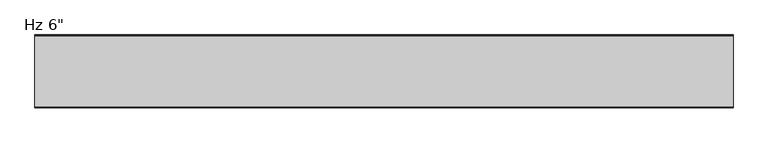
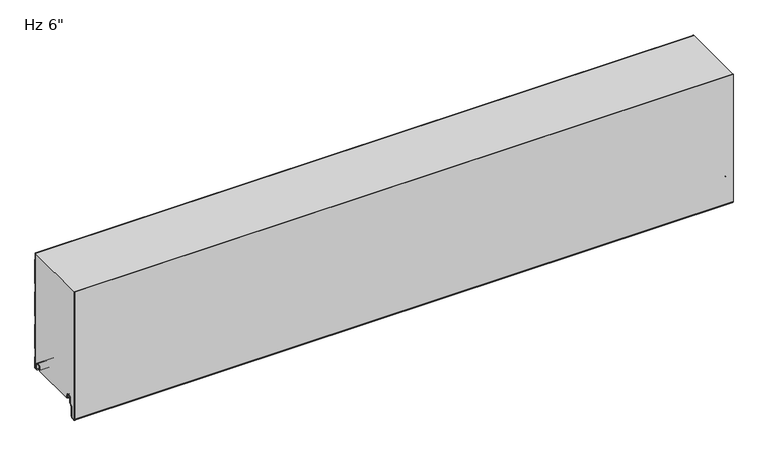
"""IFC4 building model written with IfcOpenShell, lengths in millimetres: plate geometry."""

from ifc_helpers import new_model, si_unit, point, frame, frame_2d, origin, place, context, project, spatial, polyline, circle_curve, trimmed, segment, composite_curve, outline, extrude, source, transform, mapped, element, save
from ifc_brep_helpers import plane_surface, cylinder_surface, revolved_surface, advanced_brep


def plate_1d40ac18(model_context):
    return source(origin(), model_context, "Body", "SolidModel", [
        advanced_brep(
        [(-730.0, -17.0015159, 2.0313088), (-730.0, -18.0015191, 1.0313116), (-730.0, -19.0015105, 2.0313088), (-730.0, -19.0015105, 6.0315125), (-730.0, -18.0015159, 6.0315125), (-730.0, -18.0015159, 8.7237223), (-730.0, -14.7015202, 12.023718), (-730.0, -10.301529, 12.023718), (-730.0, -7.0015335, 8.7237225), (-730.0, -7.0015335, -1.6962564), (-730.0, -5.2315393, -3.4662506), (-730.0, -0.9999916, -3.4662506), (-730.0, -0.9999916, 21.034026), (-730.0, -2.2002307, 22.4196686), (-730.0, -2.2002307, 41.7948349), (-730.0, -1.0, 43.1804679), (-730.0, -1.0, 97.2338833), (-730.0, -2.2002307, 98.6195162), (-730.0, -2.2002307, 117.9946825), (-730.0, -1.0, 119.3803155), (-730.0, -1.0, 173.4337309), (-730.0, -2.2002307, 174.8193638), (-730.0, -2.2002307, 194.1945301), (-730.0, -1.0, 195.5801631), (-730.0, -1.0, 249.6335785), (-730.0, -2.2002307, 251.0192114), (-730.0, -2.2002307, 266.4), (-730.0, -1.2002307, 266.4), (-730.0, -1.2002307, 251.3920919), (-730.0, -0.3417885, 250.4010442), (-730.0, 0.0, 249.4844273), (-730.0, 0.0, 195.7293142), (-730.0, -0.3417885, 194.8126973), (-730.0, -1.2002307, 193.8216497), (-730.0, -1.2002307, 175.1922443), (-730.0, -0.3417885, 174.2011966), (-730.0, 0.0, 173.2845797), (-730.0, 0.0, 119.5294666), (-730.0, -0.3417885, 118.6128497), (-730.0, -1.2002307, 117.6218021), (-730.0, -1.2002307, 98.9923967), (-730.0, -0.3417885, 98.001349), (-730.0, 0.0, 97.0847321), (-730.0, 0.0, 43.329619), (-730.0, -0.3417885, 42.4130021), (-730.0, -1.2002307, 41.4219545), (-730.0, -1.2002307, 22.7925491), (-730.0, -0.3417885, 21.8015014), (-730.0, 0.0, 20.8847931), (-730.0, 8.4e-06, -3.0662545), (-730.0, -1.3999878, -4.4662506), (-730.0, -5.2315393, -4.4662506), (-730.0, -8.0015335, -1.6962564), (-730.0, -8.0015335, 8.7237225), (-730.0, -10.301529, 11.023718), (-730.0, -14.7015202, 11.023718), (-730.0, -17.0015159, 8.7237223), (730.0, -17.0015159, 2.0313088), (730.0, -17.0015159, 8.7237223), (730.0, -14.7015202, 11.023718), (730.0, -10.301529, 11.023718), (730.0, -8.0015335, 8.7237225), (730.0, -8.0015335, -1.6962564), (730.0, -5.2315393, -4.4662506), (730.0, -1.3999878, -4.4662506), (730.0, 8.4e-06, -3.0662545), (730.0, 8.4e-06, 20.8848845), (730.0, -0.3417885, 21.8015014), (730.0, -1.2002307, 22.7925491), (730.0, -1.2002307, 41.4219545), (730.0, -0.3417885, 42.4130021), (730.0, 0.0, 43.329619), (730.0, 0.0, 97.0847321), (730.0, -0.3417885, 98.001349), (730.0, -1.2002307, 98.9923967), (730.0, -1.2002307, 117.6218021), (730.0, -0.3417885, 118.6128497), (730.0, 0.0, 119.5294666), (730.0, 0.0, 173.2845797), (730.0, -0.3417885, 174.2011966), (730.0, -1.2002307, 175.1922443), (730.0, -1.2002307, 193.8216497), (730.0, -0.3417885, 194.8126973), (730.0, 0.0, 195.7293142), (730.0, 0.0, 249.4844273), (730.0, -0.3417885, 250.4010442), (730.0, -1.2002307, 251.3920919), (730.0, -1.2002307, 266.4), (730.0, -2.2002307, 266.4), (730.0, -2.2002307, 251.0192114), (730.0, -1.0, 249.6335785), (730.0, -1.0, 195.5801631), (730.0, -2.2002307, 194.1945301), (730.0, -2.2002307, 174.8193638), (730.0, -1.0, 173.4337309), (730.0, -1.0, 119.3803155), (730.0, -2.2002307, 117.9946825), (730.0, -2.2002307, 98.6195162), (730.0, -1.0, 97.2338833), (730.0, -1.0, 43.1804679), (730.0, -2.2002307, 41.7948349), (730.0, -2.2002307, 22.4196686), (730.0, -0.9999916, 21.034026), (730.0, -0.9999916, -3.4662506), (730.0, -5.2315393, -3.4662506), (730.0, -7.0015335, -1.6962564), (730.0, -7.0015335, 8.7237225), (730.0, -10.301529, 12.023718), (730.0, -14.7015202, 12.023718), (730.0, -18.0015159, 8.7237223), (730.0, -18.0015159, 6.0315125), (730.0, -19.0015105, 6.0315125), (730.0, -19.0015105, 2.0313088), (730.0, -18.0015192, 1.0313116)],
        [
            (0, 1, circle_curve(frame((-730.0, -18.0015132, 2.0313088), z_axis=(-1.0, 0.0, 0.0), x_axis=(0.0, 0.0, 1.0)), 0.9999973)),
            (1, 2, circle_curve(frame((-730.0, -18.0015133, 2.0313088), z_axis=(-1.0, 0.0, 0.0), x_axis=(0.0, 0.0, 1.0)), 0.9999972)),
            (2, 3),
            (3, 4),
            (4, 5),
            (5, 6, circle_curve(frame((-730.0, -14.7015202, 8.7237223), z_axis=(-1.0, 0.0, 0.0), x_axis=(0.0, 0.0, 1.0)), 3.2999957)),
            (6, 7),
            (7, 8, circle_curve(frame((-730.0, -10.301529, 8.7237225), z_axis=(-1.0, 0.0, 0.0), x_axis=(0.0, 0.0, 1.0)), 3.2999955)),
            (8, 9),
            (9, 10, circle_curve(frame((-730.0, -5.2315393, -1.6962564), z_axis=(1.0, 0.0, 0.0), x_axis=(0.0, 0.0, 1.0)), 1.7699942)),
            (10, 11),
            (11, 12),
            (12, 13),
            (13, 14),
            (14, 15),
            (15, 16),
            (16, 17),
            (17, 18),
            (18, 19),
            (19, 20),
            (20, 21),
            (21, 22),
            (22, 23),
            (23, 24),
            (24, 25),
            (25, 26),
            (26, 27),
            (27, 28),
            (28, 29),
            (29, 30, circle_curve(frame((-730.0, -1.3999972, 249.4844273), z_axis=(-1.0, 0.0, 0.0), x_axis=(0.0, 0.0, 1.0)), 1.3999972)),
            (30, 31),
            (31, 32, circle_curve(frame((-730.0, -1.3999972, 195.7293142), z_axis=(-1.0, 0.0, 0.0), x_axis=(0.0, 0.0, 1.0)), 1.3999972)),
            (32, 33),
            (33, 34),
            (34, 35),
            (35, 36, circle_curve(frame((-730.0, -1.3999972, 173.2845797), z_axis=(-1.0, 0.0, 0.0), x_axis=(0.0, 0.0, 1.0)), 1.3999972)),
            (36, 37),
            (37, 38, circle_curve(frame((-730.0, -1.3999972, 119.5294666), z_axis=(-1.0, 0.0, 0.0), x_axis=(0.0, 0.0, 1.0)), 1.3999972)),
            (38, 39),
            (39, 40),
            (40, 41),
            (41, 42, circle_curve(frame((-730.0, -1.3999972, 97.0847321), z_axis=(-1.0, 0.0, 0.0), x_axis=(0.0, 0.0, 1.0)), 1.3999972)),
            (42, 43),
            (43, 44, circle_curve(frame((-730.0, -1.3999972, 43.329619), z_axis=(-1.0, 0.0, 0.0), x_axis=(0.0, 0.0, 1.0)), 1.3999972)),
            (44, 45),
            (45, 46),
            (46, 47),
            (47, 48, circle_curve(frame((-730.0, -1.3999972, 20.8848845), z_axis=(-1.0, 0.0, 0.0), x_axis=(0.0, 0.0, 1.0)), 1.3999972)),
            (48, 49),
            (49, 50, circle_curve(frame((-730.0, -1.3999878, -3.0662545), z_axis=(-1.0, 0.0, 0.0), x_axis=(0.0, 0.0, 1.0)), 1.3999962)),
            (50, 51),
            (51, 52, circle_curve(frame((-730.0, -5.2315393, -1.6962564), z_axis=(-1.0, 0.0, 0.0), x_axis=(0.0, 0.0, 1.0)), 2.7699942)),
            (52, 53),
            (53, 54, circle_curve(frame((-730.0, -10.301529, 8.7237225), z_axis=(1.0, 0.0, 0.0), x_axis=(0.0, 0.0, 1.0)), 2.2999955)),
            (54, 55),
            (55, 56, circle_curve(frame((-730.0, -14.7015202, 8.7237223), z_axis=(1.0, 0.0, 0.0), x_axis=(0.0, 0.0, 1.0)), 2.2999957)),
            (56, 0),
            (57, 58),
            (58, 59, circle_curve(frame((730.0, -14.7015202, 8.7237223), z_axis=(-1.0, 0.0, 0.0), x_axis=(0.0, 0.0, 1.0)), 2.2999957)),
            (59, 60),
            (60, 61, circle_curve(frame((730.0, -10.301529, 8.7237225), z_axis=(-1.0, 0.0, 0.0), x_axis=(0.0, 0.0, 1.0)), 2.2999955)),
            (61, 62),
            (62, 63, circle_curve(frame((730.0, -5.2315393, -1.6962564), z_axis=(1.0, 0.0, 0.0), x_axis=(0.0, 0.0, 1.0)), 2.7699942)),
            (63, 64),
            (64, 65, circle_curve(frame((730.0, -1.3999878, -3.0662545), z_axis=(1.0, 0.0, 0.0), x_axis=(0.0, 0.0, 1.0)), 1.3999962)),
            (65, 66),
            (66, 67, circle_curve(frame((730.0, -1.3999972, 20.8848845), z_axis=(1.0, 0.0, 0.0), x_axis=(0.0, 0.0, 1.0)), 1.3999972)),
            (67, 68),
            (68, 69),
            (69, 70),
            (70, 71, circle_curve(frame((730.0, -1.3999972, 43.329619), z_axis=(1.0, 0.0, 0.0), x_axis=(0.0, 0.0, 1.0)), 1.3999972)),
            (71, 72),
            (72, 73, circle_curve(frame((730.0, -1.3999972, 97.0847321), z_axis=(1.0, 0.0, 0.0), x_axis=(0.0, 0.0, 1.0)), 1.3999972)),
            (73, 74),
            (74, 75),
            (75, 76),
            (76, 77, circle_curve(frame((730.0, -1.3999972, 119.5294666), z_axis=(1.0, 0.0, 0.0), x_axis=(0.0, 0.0, 1.0)), 1.3999972)),
            (77, 78),
            (78, 79, circle_curve(frame((730.0, -1.3999972, 173.2845797), z_axis=(1.0, 0.0, 0.0), x_axis=(0.0, 0.0, 1.0)), 1.3999972)),
            (79, 80),
            (80, 81),
            (81, 82),
            (82, 83, circle_curve(frame((730.0, -1.3999972, 195.7293142), z_axis=(1.0, 0.0, 0.0), x_axis=(0.0, 0.0, 1.0)), 1.3999972)),
            (83, 84),
            (84, 85, circle_curve(frame((730.0, -1.3999972, 249.4844273), z_axis=(1.0, 0.0, 0.0), x_axis=(0.0, 0.0, 1.0)), 1.3999972)),
            (85, 86),
            (86, 87),
            (87, 88),
            (88, 89),
            (89, 90),
            (90, 91),
            (91, 92),
            (92, 93),
            (93, 94),
            (94, 95),
            (95, 96),
            (96, 97),
            (97, 98),
            (98, 99),
            (99, 100),
            (100, 101),
            (101, 102),
            (102, 103),
            (103, 104),
            (104, 105, circle_curve(frame((730.0, -5.2315393, -1.6962564), z_axis=(-1.0, 0.0, 0.0), x_axis=(0.0, 0.0, 1.0)), 1.7699942)),
            (105, 106),
            (106, 107, circle_curve(frame((730.0, -10.301529, 8.7237225), z_axis=(1.0, 0.0, 0.0), x_axis=(0.0, 0.0, 1.0)), 3.2999955)),
            (107, 108),
            (108, 109, circle_curve(frame((730.0, -14.7015202, 8.7237223), z_axis=(1.0, 0.0, 0.0), x_axis=(0.0, 0.0, 1.0)), 3.2999957)),
            (109, 110),
            (110, 111),
            (111, 112),
            (112, 113, circle_curve(frame((730.0, -18.0015133, 2.0313088), z_axis=(1.0, 0.0, 0.0), x_axis=(0.0, 0.0, 1.0)), 0.9999972)),
            (113, 57, circle_curve(frame((730.0, -18.0015132, 2.0313088), z_axis=(1.0, 0.0, 0.0), x_axis=(0.0, 0.0, 1.0)), 0.9999973)),
            (26, 88),
            (87, 27),
            (56, 58),
            (57, 0),
            (55, 59),
            (54, 60),
            (53, 61),
            (52, 62),
            (51, 63),
            (50, 64),
            (49, 65),
            (48, 66),
            (47, 67),
            (46, 68),
            (45, 69),
            (44, 70),
            (43, 71),
            (42, 72),
            (41, 73),
            (40, 74),
            (39, 75),
            (38, 76),
            (37, 77),
            (36, 78),
            (19, 95),
            (94, 20),
            (18, 96),
            (17, 97),
            (16, 98),
            (15, 99),
            (14, 100),
            (13, 101),
            (12, 102),
            (11, 103),
            (10, 104),
            (9, 105),
            (8, 106),
            (7, 107),
            (6, 108),
            (5, 109),
            (4, 110),
            (3, 111),
            (2, 112),
            (1, 113),
            (35, 79),
            (34, 80),
            (33, 81),
            (32, 82),
            (31, 83),
            (30, 84),
            (29, 85),
            (28, 86),
            (25, 89),
            (24, 90),
            (23, 91),
            (22, 92),
            (21, 93),
        ],
        [
            plane_surface(frame((-730.0, 0.0, 533.4), z_axis=(-1.0, 0.0, 0.0), x_axis=(0.0, 1.0, 0.0))),
            plane_surface(frame((730.0, 0.0, 533.4), z_axis=(1.0, 0.0, 0.0), x_axis=(0.0, 1.0, 0.0))),
            plane_surface(frame((730.0, 10.0, 266.4), z_axis=(0.0, 0.0, 1.0), x_axis=(-1.0, 0.0, 0.0))),
            plane_surface(frame((-730.0, -17.0015159, 2.0313088), z_axis=(0.0, 1.0, 0.0), x_axis=(1.0, 0.0, 0.0))),
            revolved_surface(polyline([(730.0, -14.7015202, 11.023718), (-730.0, -14.7015202, 11.023718)]), (-730.0, -14.7015202, 8.7237223), (1.0, 0.0, 0.0)),
            plane_surface(frame((-730.0, -14.7015202, 11.023718), z_axis=(0.0, 0.0, -1.0), x_axis=(1.0, 0.0, 0.0))),
            revolved_surface(polyline([(730.0, -10.301529, 11.023717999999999), (-730.0, -10.301529, 11.023717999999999)]), (-730.0, -10.301529, 8.7237225), (1.0, 0.0, 0.0)),
            plane_surface(frame((-730.0, -8.0015335, 8.7237225), z_axis=(0.0, -1.0, 0.0), x_axis=(1.0, 0.0, 0.0))),
            cylinder_surface(frame((-730.0, -5.2315393, -1.6962564), z_axis=(-1.0, 0.0, 0.0), x_axis=(0.0, 0.0, 1.0)), 2.7699942),
            plane_surface(frame((-730.0, -5.2315393, -4.4662506), z_axis=(0.0, 0.0, -1.0), x_axis=(1.0, 0.0, 0.0))),
            cylinder_surface(frame((-730.0, -1.3999878, -3.0662545), z_axis=(-1.0, 0.0, 0.0), x_axis=(0.0, 0.0, 1.0)), 1.3999962),
            plane_surface(frame((-730.0, 8.4e-06, -3.0662545), z_axis=(0.0, 1.0, 0.0), x_axis=(1.0, 0.0, 0.0))),
            cylinder_surface(frame((-730.0, -1.3999972, 20.8848845), z_axis=(-1.0, 0.0, 0.0), x_axis=(0.0, 0.0, 1.0)), 1.3999972),
            plane_surface(frame((-730.0, -0.3417885, 21.8015014), z_axis=(0.0, 0.755864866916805, 0.6547276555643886), x_axis=(1.0, 0.0, 0.0))),
            plane_surface(frame((-730.0, -1.2002307, 32.1072518), z_axis=(0.0, 1.0, 0.0), x_axis=(1.0, 0.0, 0.0))),
            plane_surface(frame((-730.0, -1.2002307, 41.4219545), z_axis=(0.0, 0.755864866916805, -0.6547276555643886), x_axis=(1.0, 0.0, 0.0))),
            cylinder_surface(frame((-730.0, -1.3999972, 43.329619), z_axis=(-1.0, 0.0, 0.0), x_axis=(0.0, 0.0, 1.0)), 1.3999972),
            plane_surface(frame((-730.0, 0.0, 43.329619), z_axis=(0.0, 1.0, 0.0), x_axis=(1.0, 0.0, 0.0))),
            cylinder_surface(frame((-730.0, -1.3999972, 97.0847321), z_axis=(-1.0, 0.0, 0.0), x_axis=(0.0, 0.0, 1.0)), 1.3999972),
            plane_surface(frame((-730.0, -0.3417885, 98.001349), z_axis=(0.0, 0.755864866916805, 0.6547276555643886), x_axis=(1.0, 0.0, 0.0))),
            plane_surface(frame((-730.0, -1.2002307, 108.3070994), z_axis=(0.0, 1.0, 0.0), x_axis=(1.0, 0.0, 0.0))),
            plane_surface(frame((-730.0, -1.2002307, 117.6218021), z_axis=(0.0, 0.755864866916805, -0.6547276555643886), x_axis=(1.0, 0.0, 0.0))),
            cylinder_surface(frame((-730.0, -1.3999972, 119.5294666), z_axis=(-1.0, 0.0, 0.0), x_axis=(0.0, 0.0, 1.0)), 1.3999972),
            plane_surface(frame((-730.0, 0.0, 119.5294666), z_axis=(0.0, 1.0, 0.0), x_axis=(1.0, 0.0, 0.0))),
            plane_surface(frame((-730.0, -1.0, 173.4337309), z_axis=(0.0, -1.0, 0.0), x_axis=(1.0, 0.0, 0.0))),
            plane_surface(frame((-730.0, -1.0, 119.3803155), z_axis=(0.0, -0.755864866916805, 0.6547276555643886), x_axis=(1.0, 0.0, 0.0))),
            plane_surface(frame((-730.0, -2.2002307, 117.9946825), z_axis=(0.0, -1.0, 0.0), x_axis=(1.0, 0.0, 0.0))),
            plane_surface(frame((-730.0, -2.2002307, 98.6195162), z_axis=(0.0, -0.755864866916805, -0.6547276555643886), x_axis=(1.0, 0.0, 0.0))),
            plane_surface(frame((-730.0, -1.0, 97.2338833), z_axis=(0.0, -1.0, 0.0), x_axis=(1.0, 0.0, 0.0))),
            plane_surface(frame((-730.0, -1.0, 43.1804679), z_axis=(0.0, -0.755864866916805, 0.6547276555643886), x_axis=(1.0, 0.0, 0.0))),
            plane_surface(frame((-730.0, -2.2002307, 41.7948349), z_axis=(0.0, -1.0, 0.0), x_axis=(1.0, 0.0, 0.0))),
            plane_surface(frame((-730.0, -2.2002307, 22.4196686), z_axis=(0.0, -0.755864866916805, -0.6547276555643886), x_axis=(1.0, 0.0, 0.0))),
            plane_surface(frame((-730.0, -0.9999916, 21.034026), z_axis=(0.0, -1.0, 0.0), x_axis=(1.0, 0.0, 0.0))),
            plane_surface(frame((-730.0, -0.9999916, -3.4662506), z_axis=(0.0, 0.0, 1.0), x_axis=(1.0, 0.0, 0.0))),
            revolved_surface(polyline([(730.0, -5.2315393, 0.07373779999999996), (-730.0, -5.2315393, 0.07373779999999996)]), (-730.0, -5.2315393, -1.6962564), (1.0, 0.0, 0.0)),
            plane_surface(frame((-730.0, -7.0015335, -1.6962564), z_axis=(0.0, 1.0, 0.0), x_axis=(1.0, 0.0, 0.0))),
            cylinder_surface(frame((-730.0, -10.301529, 8.7237225), z_axis=(-1.0, 0.0, 0.0), x_axis=(0.0, 0.0, 1.0)), 3.2999955),
            plane_surface(frame((-730.0, -10.301529, 12.023718), z_axis=(0.0, 0.0, 1.0), x_axis=(1.0, 0.0, 0.0))),
            cylinder_surface(frame((-730.0, -14.7015202, 8.7237223), z_axis=(-1.0, 0.0, 0.0), x_axis=(0.0, 0.0, 1.0)), 3.2999957),
            plane_surface(frame((-730.0, -18.0015159, 8.7237223), z_axis=(0.0, -1.0, 0.0), x_axis=(1.0, 0.0, 0.0))),
            plane_surface(frame((-730.0, -18.0015159, 6.0315125), z_axis=(0.0, 0.0, 1.0), x_axis=(1.0, 0.0, 0.0))),
            plane_surface(frame((-730.0, -19.0015105, 6.0315125), z_axis=(0.0, -1.0, 0.0), x_axis=(1.0, 0.0, 0.0))),
            cylinder_surface(frame((-730.0, -18.0015133, 2.0313088), z_axis=(-1.0, 0.0, 0.0), x_axis=(0.0, 0.0, 1.0)), 0.9999972),
            cylinder_surface(frame((-730.0, -18.0015132, 2.0313088), z_axis=(-1.0, 0.0, 0.0), x_axis=(0.0, 0.0, 1.0)), 0.9999973),
            cylinder_surface(frame((-730.0, -1.3999972, 173.2845797), z_axis=(-1.0, 0.0, 0.0), x_axis=(0.0, 0.0, 1.0)), 1.3999972),
            plane_surface(frame((-730.0, -0.3417885, 174.2011966), z_axis=(0.0, 0.755864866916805, 0.6547276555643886), x_axis=(1.0, 0.0, 0.0))),
            plane_surface(frame((-730.0, -1.2002307, 184.506947), z_axis=(0.0, 1.0, 0.0), x_axis=(1.0, 0.0, 0.0))),
            plane_surface(frame((-730.0, -1.2002307, 193.8216497), z_axis=(0.0, 0.755864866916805, -0.6547276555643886), x_axis=(1.0, 0.0, 0.0))),
            cylinder_surface(frame((-730.0, -1.3999972, 195.7293142), z_axis=(-1.0, 0.0, 0.0), x_axis=(0.0, 0.0, 1.0)), 1.3999972),
            plane_surface(frame((-730.0, 0.0, 195.7293142), z_axis=(0.0, 1.0, 0.0), x_axis=(1.0, 0.0, 0.0))),
            cylinder_surface(frame((-730.0, -1.3999972, 249.4844273), z_axis=(-1.0, 0.0, 0.0), x_axis=(0.0, 0.0, 1.0)), 1.3999972),
            plane_surface(frame((-730.0, -0.3417885, 250.4010442), z_axis=(0.0, 0.755864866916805, 0.6547276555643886), x_axis=(1.0, 0.0, 0.0))),
            plane_surface(frame((-730.0, -1.2002307, 260.7067946), z_axis=(0.0, 1.0, 0.0), x_axis=(1.0, 0.0, 0.0))),
            plane_surface(frame((-730.0, -2.2002307, 270.3943777), z_axis=(0.0, -1.0, 0.0), x_axis=(1.0, 0.0, 0.0))),
            plane_surface(frame((-730.0, -2.2002307, 251.0192114), z_axis=(0.0, -0.755864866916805, -0.6547276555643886), x_axis=(1.0, 0.0, 0.0))),
            plane_surface(frame((-730.0, -1.0, 249.6335785), z_axis=(0.0, -1.0, 0.0), x_axis=(1.0, 0.0, 0.0))),
            plane_surface(frame((-730.0, -1.0, 195.5801631), z_axis=(0.0, -0.755864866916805, 0.6547276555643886), x_axis=(1.0, 0.0, 0.0))),
            plane_surface(frame((-730.0, -2.2002307, 194.1945301), z_axis=(0.0, -1.0, 0.0), x_axis=(1.0, 0.0, 0.0))),
            plane_surface(frame((-730.0, -2.2002307, 174.8193638), z_axis=(0.0, -0.755864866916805, -0.6547276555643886), x_axis=(1.0, 0.0, 0.0))),
        ],
        [
            (0, [[1, 2, 3, 4, 5, 6, 7, 8, 9, 10, 11, 12, 13, 14, 15, 16, 17, 18, 19, 20, 21, 22, 23, 24, 25, 26, 27, 28, 29, 30, 31, 32, 33, 34, 35, 36, 37, 38, 39, 40, 41, 42, 43, 44, 45, 46, 47, 48, 49, 50, 51, 52, 53, 54, 55, 56, 57]]),
            (1, [[58, 59, 60, 61, 62, 63, 64, 65, 66, 67, 68, 69, 70, 71, 72, 73, 74, 75, 76, 77, 78, 79, 80, 81, 82, 83, 84, 85, 86, 87, 88, 89, 90, 91, 92, 93, 94, 95, 96, 97, 98, 99, 100, 101, 102, 103, 104, 105, 106, 107, 108, 109, 110, 111, 112, 113, 114]]),
            (2, [[115, -88, 116, -27]]),
            (3, [[117, -58, 118, -57]]),
            (4, [[119, -59, -117, -56]]),
            (5, [[120, -60, -119, -55]]),
            (6, [[121, -61, -120, -54]]),
            (7, [[122, -62, -121, -53]]),
            (8, [[123, -63, -122, -52]]),
            (9, [[124, -64, -123, -51]]),
            (10, [[125, -65, -124, -50]]),
            (11, [[126, -66, -125, -49]]),
            (12, [[127, -67, -126, -48]]),
            (13, [[128, -68, -127, -47]]),
            (14, [[129, -69, -128, -46]]),
            (15, [[130, -70, -129, -45]]),
            (16, [[131, -71, -130, -44]]),
            (17, [[132, -72, -131, -43]]),
            (18, [[133, -73, -132, -42]]),
            (19, [[134, -74, -133, -41]]),
            (20, [[135, -75, -134, -40]]),
            (21, [[136, -76, -135, -39]]),
            (22, [[137, -77, -136, -38]]),
            (23, [[138, -78, -137, -37]]),
            (24, [[139, -95, 140, -20]]),
            (25, [[141, -96, -139, -19]]),
            (26, [[142, -97, -141, -18]]),
            (27, [[143, -98, -142, -17]]),
            (28, [[144, -99, -143, -16]]),
            (29, [[145, -100, -144, -15]]),
            (30, [[146, -101, -145, -14]]),
            (31, [[147, -102, -146, -13]]),
            (32, [[148, -103, -147, -12]]),
            (33, [[149, -104, -148, -11]]),
            (34, [[150, -105, -149, -10]]),
            (35, [[151, -106, -150, -9]]),
            (36, [[152, -107, -151, -8]]),
            (37, [[153, -108, -152, -7]]),
            (38, [[154, -109, -153, -6]]),
            (39, [[155, -110, -154, -5]]),
            (40, [[156, -111, -155, -4]]),
            (41, [[157, -112, -156, -3]]),
            (42, [[158, -113, -157, -2]]),
            (43, [[-118, -114, -158, -1]]),
            (44, [[159, -79, -138, -36]]),
            (45, [[160, -80, -159, -35]]),
            (46, [[161, -81, -160, -34]]),
            (47, [[162, -82, -161, -33]]),
            (48, [[163, -83, -162, -32]]),
            (49, [[164, -84, -163, -31]]),
            (50, [[165, -85, -164, -30]]),
            (51, [[166, -86, -165, -29]]),
            (52, [[-28, -116, -87, -166]]),
            (53, [[-89, -115, -26, 167]]),
            (54, [[168, -90, -167, -25]]),
            (55, [[169, -91, -168, -24]]),
            (56, [[170, -92, -169, -23]]),
            (57, [[171, -93, -170, -22]]),
            (58, [[-140, -94, -171, -21]]),
        ],
    ),
        extrude(outline(composite_curve([segment(trimmed(circle_curve(frame_2d((-148.8304001, -32.4521176)), 3.5702393), [point((-148.5191297, -36.008762))], [point((-152.4, -32.5196853))], False, "CARTESIAN"), True, "CONTINUOUS"), segment(polyline([(-152.4, -32.5196853), (-152.4, 266.4), (-151.4, 266.4), (-151.4, -32.509446)]), True, "CONTINUOUS"), segment(trimmed(circle_curve(frame_2d((-148.8304001, -32.4521176)), 2.5702393), [point((-151.4, -32.509446))], [point((-148.6063145, -35.0125699))], True, "CARTESIAN"), True, "CONTINUOUS"), segment(polyline([(-148.6063145, -35.0125699), (-143.6244936, -34.5765709)]), True, "CONTINUOUS"), segment(trimmed(circle_curve(frame_2d((-144.1058842, -31.9198392)), 2.6999926), [point((-143.6244936, -34.5765709))], [point((-141.4058916, -31.9198392))], True, "CARTESIAN"), True, "CONTINUOUS"), segment(polyline([(-141.4058916, -31.9198392), (-141.4058916, -9.8247096), (-135.9038205, -4.3226385)]), True, "CONTINUOUS"), segment(trimmed(circle_curve(frame_2d((-137.1058982, -3.1205608)), 1.6999946), [point((-135.9038205, -4.3226385))], [point((-135.4059036, -3.1205608))], True, "CARTESIAN"), True, "CONTINUOUS"), segment(polyline([(-135.4059036, -3.1205608), (-135.4059036, 8.6903283)]), True, "CONTINUOUS"), segment(trimmed(circle_curve(frame_2d((-132.0559083, 8.6903283)), 3.3499953), [point((-135.4059036, 8.6903283))], [point((-132.0559083, 12.0403236))], False, "CARTESIAN"), True, "CONTINUOUS"), segment(polyline([(-132.0559083, 12.0403236), (-127.6559171, 12.0403236)]), True, "CONTINUOUS"), segment(trimmed(circle_curve(frame_2d((-127.6559171, 8.6903283)), 3.3499953), [point((-127.6559171, 12.0403236))], [point((-124.3059218, 8.6903283))], False, "CARTESIAN"), True, "CONTINUOUS"), segment(polyline([(-124.3059218, 8.6903283), (-124.3059218, 5.9912173), (-122.9074429, 5.9912173), (-122.9074429, 2.2328239)]), True, "CONTINUOUS"), segment(trimmed(circle_curve(frame_2d((-124.1074396, 2.2313092)), 1.1999976), [point((-122.9074429, 2.2328239))], [point((-124.0769177, 1.0316999))], False, "CARTESIAN"), True, "CONTINUOUS"), segment(trimmed(circle_curve(frame_2d((-124.1074396, 2.2313092)), 1.1999976), [point((-124.0769177, 1.0316999))], [point((-125.3059218, 2.1710221))], False, "CARTESIAN"), True, "CONTINUOUS"), segment(polyline([(-125.3059218, 2.1710221), (-125.3059218, 8.6903283)]), True, "CONTINUOUS"), segment(trimmed(circle_curve(frame_2d((-127.6559171, 8.6903283)), 2.3499953), [point((-125.3059218, 8.6903283))], [point((-127.6559171, 11.0403236))], True, "CARTESIAN"), True, "CONTINUOUS"), segment(polyline([(-127.6559171, 11.0403236), (-132.0559083, 11.0403236)]), True, "CONTINUOUS"), segment(trimmed(circle_curve(frame_2d((-132.0559083, 8.6903283)), 2.3499953), [point((-132.0559083, 11.0403236))], [point((-134.4059036, 8.6903283))], True, "CARTESIAN"), True, "CONTINUOUS"), segment(polyline([(-134.4059036, 8.6903283), (-134.4059036, -3.1205608)]), True, "CONTINUOUS"), segment(trimmed(circle_curve(frame_2d((-137.1058982, -3.1205608)), 2.6999946), [point((-134.4059036, -3.1205608))], [point((-135.1967137, -5.0297453))], False, "CARTESIAN"), True, "CONTINUOUS"), segment(polyline([(-135.1967137, -5.0297453), (-140.0251312, -9.8581627)]), True, "CONTINUOUS"), segment(trimmed(circle_curve(frame_2d((-139.1058942, -10.7773997)), 1.2999974), [point((-140.0251312, -9.8581627))], [point((-140.4058916, -10.7773997))], True, "CARTESIAN"), True, "CONTINUOUS"), segment(polyline([(-140.4058916, -10.7773997), (-140.4058916, -31.9198392)]), True, "CONTINUOUS"), segment(trimmed(circle_curve(frame_2d((-144.1058842, -31.9198392)), 3.6999926), [point((-140.4058916, -31.9198392))], [point((-143.4950831, -35.5690675))], False, "CARTESIAN"), True, "CONTINUOUS"), segment(polyline([(-143.4950831, -35.5690675), (-148.5191297, -36.008762)]), True, "CONTINUOUS")], self_intersect=False)), frame((-730.0, 0.0, 0.0), z_axis=(1.0, 0.0, 0.0), x_axis=(0.0, 1.0, 0.0)), (0.0, 0.0, 1.0), 1460.0),
        advanced_brep(
        [(-730.0, -124.070875, 1.0316999), (-730.0, -122.9014003, 2.2328239), (-730.0, -122.9014003, 5.9912173), (-730.0, -124.2998791, 5.9912173), (-730.0, -124.2998791, 8.6903283), (-730.0, -127.6498744, 12.0403236), (-730.0, -132.0498656, 12.0403236), (-730.0, -135.3998609, 8.6903283), (-730.0, -135.3998609, -3.1205608), (-730.0, -135.8977778, -4.3226385), (-730.0, -141.3998489, -9.8247096), (-730.0, -141.3998489, -31.9198392), (-730.0, -143.6184509, -34.5765709), (-730.0, -148.6002718, -35.0125699), (-730.0, -151.3945967, -32.4521176), (-730.0, -151.4, 266.4), (-730.0, -2.2002307, 266.4), (-730.0, -2.2002307, 251.0192115), (-730.0, -1.0, 249.6335785), (-730.0, -1.0, 195.5801631), (-730.0, -2.2002307, 194.1945302), (-730.0, -2.2002307, 174.8193639), (-730.0, -1.0, 173.4337309), (-730.0, -1.0, 119.3803155), (-730.0, -2.2002307, 117.9946826), (-730.0, -2.2002307, 98.6195163), (-730.0, -1.0, 97.2338833), (-730.0, -1.0, 43.1804679), (-730.0, -2.2002307, 41.794835), (-730.0, -2.2002307, 22.4196687), (-730.0, -0.9999916, 21.034026), (-730.0, -0.9999916, -3.4662506), (-730.0, -5.2315389, -3.4662506), (-730.0, -7.0015331, -1.6962564), (-730.0, -7.0015331, 8.7237222), (-730.0, -10.301529, 12.023718), (-730.0, -14.7015202, 12.023718), (-730.0, -18.0015159, 8.7237223), (-730.0, -18.0015159, 6.0315125), (-730.0, -19.0015105, 6.0315125), (-730.0, -19.0015105, 2.0313089), (-730.0, -18.0015192, 1.0313117), (-730.0, -19.0328308, 0.0), (-730.0, -123.0391751, 0.0), (730.0, -124.070875, 1.0316999), (730.0, -123.0391751, 0.0), (730.0, -19.0328308, 0.0), (730.0, -18.0015192, 1.0313117), (730.0, -19.0015105, 2.0313089), (730.0, -19.0015105, 6.0315125), (730.0, -18.0015159, 6.0315125), (730.0, -18.0015159, 8.7237223), (730.0, -14.7015202, 12.023718), (730.0, -10.301529, 12.023718), (730.0, -7.0015331, 8.7237222), (730.0, -7.0015331, -1.6962564), (730.0, -5.2315389, -3.4662506), (730.0, -0.9999916, -3.4662506), (730.0, -0.9999916, 21.034026), (730.0, -2.2002307, 22.4196687), (730.0, -2.2002307, 41.794835), (730.0, -1.0, 43.1804679), (730.0, -1.0, 97.2338833), (730.0, -2.2002307, 98.6195163), (730.0, -2.2002307, 117.9946826), (730.0, -1.0, 119.3803155), (730.0, -1.0, 173.4337309), (730.0, -2.2002307, 174.8193639), (730.0, -2.2002307, 194.1945302), (730.0, -1.0, 195.5801631), (730.0, -1.0, 249.6335785), (730.0, -2.2002307, 251.0192115), (730.0, -2.2002307, 266.4), (730.0, -151.4, 266.4), (730.0, -151.4, -32.4521176), (730.0, -148.6002718, -35.0125699), (730.0, -143.6184509, -34.5765709), (730.0, -141.3998489, -31.9198392), (730.0, -141.3998489, -9.8247096), (730.0, -135.8977778, -4.3226385), (730.0, -135.3998609, -3.1205608), (730.0, -135.3998609, 8.6903283), (730.0, -132.0498656, 12.0403236), (730.0, -127.6498744, 12.0403236), (730.0, -124.2998791, 8.6903283), (730.0, -124.2998791, 5.9912173), (730.0, -122.9014003, 5.9912173), (730.0, -122.9014003, 2.2328239)],
        [
            (0, 1, circle_curve(frame((-730.0, -124.1013969, 2.2313092), z_axis=(1.0, 0.0, 0.0), x_axis=(0.0, 0.0, -1.0)), 1.1999976)),
            (1, 2),
            (2, 3),
            (3, 4),
            (4, 5, circle_curve(frame((-730.0, -127.6498744, 8.6903283), z_axis=(1.0, 0.0, 0.0), x_axis=(0.0, 0.0, -1.0)), 3.3499953)),
            (5, 6),
            (6, 7, circle_curve(frame((-730.0, -132.0498656, 8.6903283), z_axis=(1.0, 0.0, 0.0), x_axis=(0.0, 0.0, -1.0)), 3.3499953)),
            (7, 8),
            (8, 9, circle_curve(frame((-730.0, -137.0998555, -3.1205608), z_axis=(-1.0, 0.0, 0.0), x_axis=(0.0, 0.0, -1.0)), 1.6999946)),
            (9, 10),
            (10, 11),
            (11, 12, circle_curve(frame((-730.0, -144.0998415, -31.9198392), z_axis=(-1.0, 0.0, 0.0), x_axis=(0.0, 0.0, -1.0)), 2.6999926)),
            (12, 13),
            (13, 14, circle_curve(frame((-730.0, -148.8243575, -32.4521176), z_axis=(-1.0, 0.0, 0.0), x_axis=(0.0, 0.0, -1.0)), 2.5702393)),
            (14, 15),
            (15, 16),
            (16, 17),
            (17, 18),
            (18, 19),
            (19, 20),
            (20, 21),
            (21, 22),
            (22, 23),
            (23, 24),
            (24, 25),
            (25, 26),
            (26, 27),
            (27, 28),
            (28, 29),
            (29, 30),
            (30, 31),
            (31, 32),
            (32, 33, circle_curve(frame((-730.0, -5.2315389, -1.6962564), z_axis=(-1.0, 0.0, 0.0), x_axis=(0.0, 0.0, -1.0)), 1.7699942)),
            (33, 34),
            (34, 35, circle_curve(frame((-730.0, -10.301529, 8.7237222), z_axis=(1.0, 0.0, 0.0), x_axis=(0.0, 0.0, -1.0)), 3.2999959)),
            (35, 36),
            (36, 37, circle_curve(frame((-730.0, -14.7015202, 8.7237223), z_axis=(1.0, 0.0, 0.0), x_axis=(0.0, 0.0, -1.0)), 3.2999957)),
            (37, 38),
            (38, 39),
            (39, 40),
            (40, 41, circle_curve(frame((-730.0, -18.0015133, 2.0313089), z_axis=(1.0, 0.0, 0.0), x_axis=(0.0, 0.0, -1.0)), 0.9999972)),
            (41, 42),
            (42, 43),
            (43, 0),
            (44, 45),
            (45, 46),
            (46, 47),
            (47, 48, circle_curve(frame((730.0, -18.0015133, 2.0313089), z_axis=(-1.0, 0.0, 0.0), x_axis=(0.0, 0.0, -1.0)), 0.9999972)),
            (48, 49),
            (49, 50),
            (50, 51),
            (51, 52, circle_curve(frame((730.0, -14.7015202, 8.7237223), z_axis=(-1.0, 0.0, 0.0), x_axis=(0.0, 0.0, -1.0)), 3.2999957)),
            (52, 53),
            (53, 54, circle_curve(frame((730.0, -10.301529, 8.7237222), z_axis=(-1.0, 0.0, 0.0), x_axis=(0.0, 0.0, -1.0)), 3.2999959)),
            (54, 55),
            (55, 56, circle_curve(frame((730.0, -5.2315389, -1.6962564), z_axis=(1.0, 0.0, 0.0), x_axis=(0.0, 0.0, -1.0)), 1.7699942)),
            (56, 57),
            (57, 58),
            (58, 59),
            (59, 60),
            (60, 61),
            (61, 62),
            (62, 63),
            (63, 64),
            (64, 65),
            (65, 66),
            (66, 67),
            (67, 68),
            (68, 69),
            (69, 70),
            (70, 71),
            (71, 72),
            (72, 73),
            (73, 74),
            (74, 75, circle_curve(frame((730.0, -148.8243575, -32.4521176), z_axis=(1.0, 0.0, 0.0), x_axis=(0.0, 0.0, -1.0)), 2.5702393)),
            (75, 76),
            (76, 77, circle_curve(frame((730.0, -144.0998415, -31.9198392), z_axis=(1.0, 0.0, 0.0), x_axis=(0.0, 0.0, -1.0)), 2.6999926)),
            (77, 78),
            (78, 79),
            (79, 80, circle_curve(frame((730.0, -137.0998555, -3.1205608), z_axis=(1.0, 0.0, 0.0), x_axis=(0.0, 0.0, -1.0)), 1.6999946)),
            (80, 81),
            (81, 82, circle_curve(frame((730.0, -132.0498656, 8.6903283), z_axis=(-1.0, 0.0, 0.0), x_axis=(0.0, 0.0, -1.0)), 3.3499953)),
            (82, 83),
            (83, 84, circle_curve(frame((730.0, -127.6498744, 8.6903283), z_axis=(-1.0, 0.0, 0.0), x_axis=(0.0, 0.0, -1.0)), 3.3499953)),
            (84, 85),
            (85, 86),
            (86, 87),
            (87, 44, circle_curve(frame((730.0, -124.1013969, 2.2313092), z_axis=(-1.0, 0.0, 0.0), x_axis=(0.0, 0.0, -1.0)), 1.1999976)),
            (15, 73),
            (72, 16),
            (43, 45),
            (44, 0),
            (42, 46),
            (14, 74),
            (13, 75),
            (12, 76),
            (11, 77),
            (10, 78),
            (9, 79),
            (8, 80),
            (7, 81),
            (6, 82),
            (5, 83),
            (4, 84),
            (3, 85),
            (2, 86),
            (1, 87),
            (41, 47),
            (40, 48),
            (39, 49),
            (38, 50),
            (37, 51),
            (36, 52),
            (35, 53),
            (34, 54),
            (33, 55),
            (32, 56),
            (31, 57),
            (30, 58),
            (29, 59),
            (28, 60),
            (27, 61),
            (26, 62),
            (25, 63),
            (24, 64),
            (23, 65),
            (22, 66),
            (21, 67),
            (20, 68),
            (19, 69),
            (18, 70),
            (17, 71),
        ],
        [
            plane_surface(frame((-730.0, -151.4, 533.4), z_axis=(-1.0, 0.0, 0.0), x_axis=(0.0, -1.0, 0.0))),
            plane_surface(frame((730.0, -151.4, 533.4), z_axis=(1.0, 0.0, 0.0), x_axis=(0.0, -1.0, 0.0))),
            plane_surface(frame((730.0, 10.0, 266.4), z_axis=(0.0, 0.0, 1.0), x_axis=(-1.0, 0.0, 0.0))),
            plane_surface(frame((-730.0, -124.070875, 1.0316999), z_axis=(0.0, -0.7071067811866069, -0.7071067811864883), x_axis=(1.0, 0.0, 0.0))),
            plane_surface(frame((-730.0, -123.0391751, 0.0), z_axis=(0.0, 0.0, -1.0), x_axis=(1.0, 0.0, 0.0))),
            plane_surface(frame((-730.0, -151.4, 1018.3156233), z_axis=(0.0, -1.0, 0.0), x_axis=(1.0, 0.0, 0.0))),
            cylinder_surface(frame((-730.0, -148.8243575, -32.4521176), z_axis=(-1.0, 0.0, 0.0), x_axis=(0.0, 0.0, -1.0)), 2.5702393),
            plane_surface(frame((-730.0, -148.6002718, -35.0125699), z_axis=(0.0, 0.08718474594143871, -0.9961921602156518), x_axis=(1.0, 0.0, 0.0))),
            cylinder_surface(frame((-730.0, -144.0998415, -31.9198392), z_axis=(-1.0, 0.0, 0.0), x_axis=(0.0, 0.0, -1.0)), 2.6999926),
            plane_surface(frame((-730.0, -141.3998489, -31.9198392), z_axis=(0.0, 1.0, 0.0), x_axis=(1.0, 0.0, 0.0))),
            plane_surface(frame((-730.0, -141.3998489, -9.8247096), z_axis=(0.0, 0.7071067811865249, -0.7071067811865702), x_axis=(1.0, 0.0, 0.0))),
            cylinder_surface(frame((-730.0, -137.0998555, -3.1205608), z_axis=(-1.0, 0.0, 0.0), x_axis=(0.0, 0.0, -1.0)), 1.6999946),
            plane_surface(frame((-730.0, -135.3998609, -3.1205608), z_axis=(0.0, 1.0, 0.0), x_axis=(1.0, 0.0, 0.0))),
            revolved_surface(polyline([(730.0, -132.0498656, 5.340332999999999), (-730.0, -132.0498656, 5.340332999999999)]), (-730.0, -132.0498656, 8.6903283), (1.0, 0.0, 0.0)),
            plane_surface(frame((-730.0, -132.0498656, 12.0403236), z_axis=(0.0, 0.0, -1.0), x_axis=(1.0, 0.0, 0.0))),
            revolved_surface(polyline([(730.0, -127.6498744, 5.340332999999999), (-730.0, -127.6498744, 5.340332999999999)]), (-730.0, -127.6498744, 8.6903283), (1.0, 0.0, 0.0)),
            plane_surface(frame((-730.0, -124.2998791, 8.6903283), z_axis=(0.0, -1.0, 0.0), x_axis=(1.0, 0.0, 0.0))),
            plane_surface(frame((-730.0, -124.2998791, 5.9912173), z_axis=(0.0, 0.0, -1.0), x_axis=(1.0, 0.0, 0.0))),
            plane_surface(frame((-730.0, -122.9014003, 5.9912173), z_axis=(0.0, -1.0, 0.0), x_axis=(1.0, 0.0, 0.0))),
            revolved_surface(polyline([(730.0, -124.1013969, 1.0313116), (-730.0, -124.1013969, 1.0313116)]), (-730.0, -124.1013969, 2.2313092), (1.0, 0.0, 0.0)),
            plane_surface(frame((-730.0, -19.0328308, 0.0), z_axis=(0.0, 0.7071067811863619, -0.7071067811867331), x_axis=(1.0, 0.0, 0.0))),
            revolved_surface(polyline([(730.0, -18.0015133, 1.0313116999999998), (-730.0, -18.0015133, 1.0313116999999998)]), (-730.0, -18.0015133, 2.0313089), (1.0, 0.0, 0.0)),
            plane_surface(frame((-730.0, -19.0015105, 2.0313089), z_axis=(0.0, 1.0, 0.0), x_axis=(1.0, 0.0, 0.0))),
            plane_surface(frame((-730.0, -19.0015105, 6.0315125), z_axis=(0.0, 0.0, -1.0), x_axis=(1.0, 0.0, 0.0))),
            plane_surface(frame((-730.0, -18.0015159, 6.0315125), z_axis=(0.0, 1.0, 0.0), x_axis=(1.0, 0.0, 0.0))),
            revolved_surface(polyline([(730.0, -14.7015202, 5.4237266), (-730.0, -14.7015202, 5.4237266)]), (-730.0, -14.7015202, 8.7237223), (1.0, 0.0, 0.0)),
            plane_surface(frame((-730.0, -14.7015202, 12.023718), z_axis=(0.0, 0.0, -1.0), x_axis=(1.0, 0.0, 0.0))),
            revolved_surface(polyline([(730.0, -10.301529, 5.423726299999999), (-730.0, -10.301529, 5.423726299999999)]), (-730.0, -10.301529, 8.7237222), (1.0, 0.0, 0.0)),
            plane_surface(frame((-730.0, -7.0015331, 8.7237222), z_axis=(0.0, -1.0, 0.0), x_axis=(1.0, 0.0, 0.0))),
            cylinder_surface(frame((-730.0, -5.2315389, -1.6962564), z_axis=(-1.0, 0.0, 0.0), x_axis=(0.0, 0.0, -1.0)), 1.7699942),
            plane_surface(frame((-730.0, -5.2315389, -3.4662506), z_axis=(0.0, 0.0, -1.0), x_axis=(1.0, 0.0, 0.0))),
            plane_surface(frame((-730.0, -0.9999916, -3.4662506), z_axis=(0.0, 1.0, 0.0), x_axis=(1.0, 0.0, 0.0))),
            plane_surface(frame((-730.0, -0.9999916, 21.034026), z_axis=(0.0, 0.7558648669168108, 0.6547276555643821), x_axis=(1.0, 0.0, 0.0))),
            plane_surface(frame((-730.0, -2.2002307, 22.4196687), z_axis=(0.0, 1.0, 0.0), x_axis=(1.0, 0.0, 0.0))),
            plane_surface(frame((-730.0, -2.2002307, 41.794835), z_axis=(0.0, 0.7558648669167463, -0.6547276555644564), x_axis=(1.0, 0.0, 0.0))),
            plane_surface(frame((-730.0, -1.0, 43.1804679), z_axis=(0.0, 1.0, 0.0), x_axis=(1.0, 0.0, 0.0))),
            plane_surface(frame((-730.0, -1.0, 97.2338833), z_axis=(0.0, 0.7558648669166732, 0.6547276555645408), x_axis=(1.0, 0.0, 0.0))),
            plane_surface(frame((-730.0, -2.2002307, 98.6195163), z_axis=(0.0, 1.0, 0.0), x_axis=(1.0, 0.0, 0.0))),
            plane_surface(frame((-730.0, -2.2002307, 117.9946826), z_axis=(0.0, 0.7558648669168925, -0.6547276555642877), x_axis=(1.0, 0.0, 0.0))),
            plane_surface(frame((-730.0, -1.0, 119.3803155), z_axis=(0.0, 1.0, 0.0), x_axis=(1.0, 0.0, 0.0))),
            plane_surface(frame((-730.0, -1.0, 173.4337309), z_axis=(0.0, 0.7558648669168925, 0.6547276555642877), x_axis=(1.0, 0.0, 0.0))),
            plane_surface(frame((-730.0, -2.2002307, 174.8193639), z_axis=(0.0, 1.0, 0.0), x_axis=(1.0, 0.0, 0.0))),
            plane_surface(frame((-730.0, -2.2002307, 194.1945302), z_axis=(0.0, 0.7558648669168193, -0.6547276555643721), x_axis=(1.0, 0.0, 0.0))),
            plane_surface(frame((-730.0, -1.0, 195.5801631), z_axis=(0.0, 1.0, 0.0), x_axis=(1.0, 0.0, 0.0))),
            plane_surface(frame((-730.0, -1.0, 249.6335785), z_axis=(0.0, 0.7558648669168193, 0.6547276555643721), x_axis=(1.0, 0.0, 0.0))),
            plane_surface(frame((-730.0, -2.2002307, 251.0192115), z_axis=(0.0, 1.0, 0.0), x_axis=(1.0, 0.0, 0.0))),
        ],
        [
            (0, [[1, 2, 3, 4, 5, 6, 7, 8, 9, 10, 11, 12, 13, 14, 15, 16, 17, 18, 19, 20, 21, 22, 23, 24, 25, 26, 27, 28, 29, 30, 31, 32, 33, 34, 35, 36, 37, 38, 39, 40, 41, 42, 43, 44]]),
            (1, [[45, 46, 47, 48, 49, 50, 51, 52, 53, 54, 55, 56, 57, 58, 59, 60, 61, 62, 63, 64, 65, 66, 67, 68, 69, 70, 71, 72, 73, 74, 75, 76, 77, 78, 79, 80, 81, 82, 83, 84, 85, 86, 87, 88]]),
            (2, [[89, -73, 90, -16]]),
            (3, [[91, -45, 92, -44]]),
            (4, [[-43, 93, -46, -91]]),
            (5, [[-74, -89, -15, 94]]),
            (6, [[95, -75, -94, -14]]),
            (7, [[96, -76, -95, -13]]),
            (8, [[97, -77, -96, -12]]),
            (9, [[98, -78, -97, -11]]),
            (10, [[99, -79, -98, -10]]),
            (11, [[100, -80, -99, -9]]),
            (12, [[101, -81, -100, -8]]),
            (13, [[102, -82, -101, -7]]),
            (14, [[103, -83, -102, -6]]),
            (15, [[104, -84, -103, -5]]),
            (16, [[105, -85, -104, -4]]),
            (17, [[106, -86, -105, -3]]),
            (18, [[107, -87, -106, -2]]),
            (19, [[-92, -88, -107, -1]]),
            (20, [[108, -47, -93, -42]]),
            (21, [[109, -48, -108, -41]]),
            (22, [[110, -49, -109, -40]]),
            (23, [[111, -50, -110, -39]]),
            (24, [[112, -51, -111, -38]]),
            (25, [[113, -52, -112, -37]]),
            (26, [[114, -53, -113, -36]]),
            (27, [[115, -54, -114, -35]]),
            (28, [[116, -55, -115, -34]]),
            (29, [[117, -56, -116, -33]]),
            (30, [[118, -57, -117, -32]]),
            (31, [[119, -58, -118, -31]]),
            (32, [[120, -59, -119, -30]]),
            (33, [[121, -60, -120, -29]]),
            (34, [[122, -61, -121, -28]]),
            (35, [[123, -62, -122, -27]]),
            (36, [[124, -63, -123, -26]]),
            (37, [[125, -64, -124, -25]]),
            (38, [[126, -65, -125, -24]]),
            (39, [[127, -66, -126, -23]]),
            (40, [[128, -67, -127, -22]]),
            (41, [[129, -68, -128, -21]]),
            (42, [[130, -69, -129, -20]]),
            (43, [[131, -70, -130, -19]]),
            (44, [[132, -71, -131, -18]]),
            (45, [[-17, -90, -72, -132]]),
        ],
    ),
    ])


if __name__ == "__main__":
    model = new_model("IFC4")
    model_context = context("Model", 3, world=origin())
    ifc_project = project(units=[si_unit("LENGTHUNIT", "METRE", prefix="MILLI")], contexts=[model_context])
    site = spatial("IfcSite", under=ifc_project)
    building = spatial("IfcBuilding", under=site)
    placement = place(None, origin())
    plate_shape = plate_1d40ac18(model_context)
    element("IfcPlate", 1, ObjectType="KIP-42-Karrier-KP-R19-CP-Hz-FL3-8in_SL : Hz 6\"", at=placement, inside=building, context=model_context, shape_type="MappedRepresentation", body=[
        mapped(plate_shape, transform((0.0, 0.0, 0.0), x_axis=(1.0, 0.0, 0.0), y_axis=(0.0, 1.0, 0.0), z_axis=(0.0, 0.0, 1.0))),
    ])
    save(model, "model.ifc")
